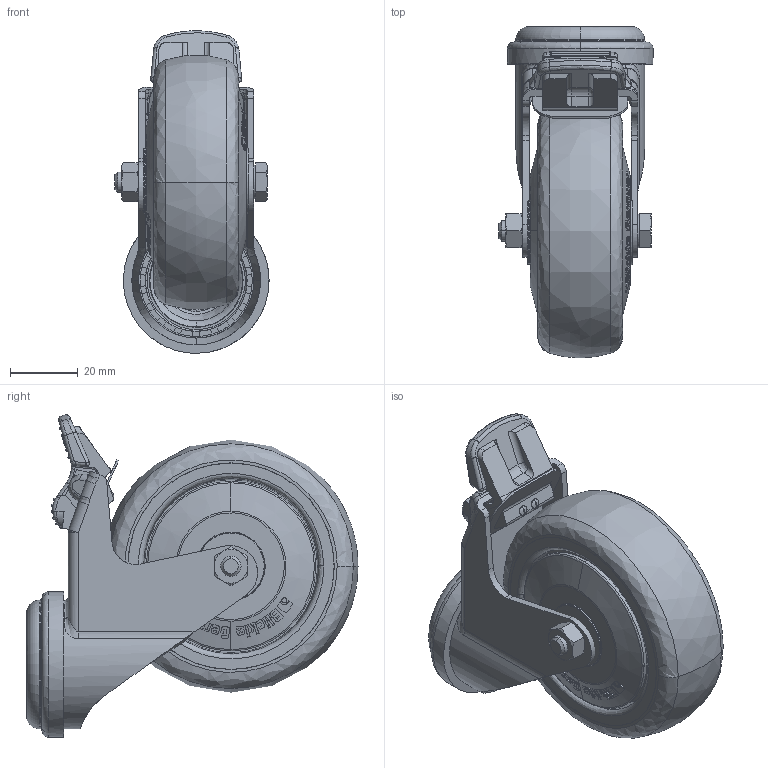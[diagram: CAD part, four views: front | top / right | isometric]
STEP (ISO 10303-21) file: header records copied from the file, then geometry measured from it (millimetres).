
FILE_DESCRIPTION (( 'STEP AP214' ), '1' );
FILE_NAME ('1.5052 Pyörä Blickle D75 H100 kääntyvä lukollinen kuulalaakerilla.STEP', '2025-09-17T07:24:42', ( '' ), ( '' ), 'SwSTEP 2.0', 'SolidWorks 2025', '' );
FILE_SCHEMA (( 'AUTOMOTIVE_DESIGN' ));
Length unit declared in the file: millimetre
Products named in the file (1): 1.5052 Pyörä Blickle D75 H100 kääntyvä lukollinen kuulalaakerilla
Bounding box: 45.5 x 98 x 95.22 mm (x, y, z)
Volume: 127285.6 mm3; surface area: 46837.3 mm2
Topology: 3 solids, 3 shells, 2278 faces, 6081 edges, 3956 vertices
Faces by surface type: plane 1025, bspline 742, cylinder 269, cone 145, sphere 49, torus 48
Entity records: 152857 total; most frequent: CARTESIAN_POINT 82716, ORIENTED_EDGE 12110, DIRECTION 6710, EDGE_CURVE 6055, VERTEX_POINT 3953, B_SPLINE_CURVE_WITH_KNOTS 2853, VECTOR 2608, LINE 2608
